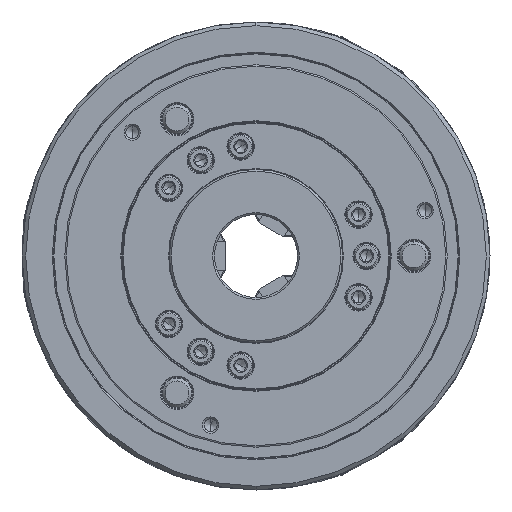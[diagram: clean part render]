
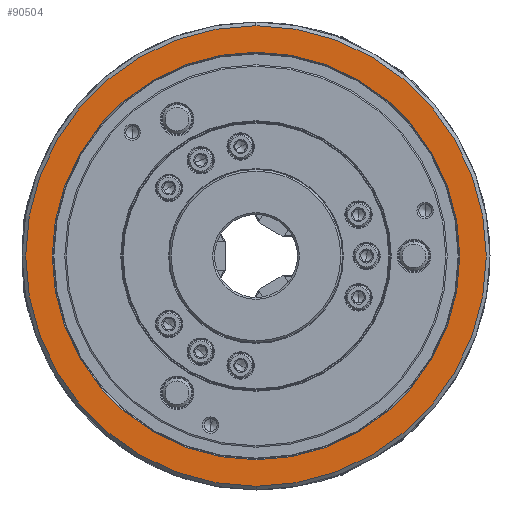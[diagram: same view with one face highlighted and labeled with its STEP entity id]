
A CAD part, left-side view. The second image highlights one B-rep face of the part: STEP entity #90504.
In plain terms, the highlighted planar face has unit normal (-1, 0, 0).
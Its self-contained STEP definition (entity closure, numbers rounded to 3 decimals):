
#719 = FACE_OUTER_BOUND ( 'NONE', #41656, .T. ) ;
#2224 = DIRECTION ( 'NONE',  ( 0., 0., -1. ) ) ;
#6208 = ORIENTED_EDGE ( 'NONE', *, *, #60204, .F. ) ;
#7930 = CARTESIAN_POINT ( 'NONE',  ( -100., 0., 0. ) ) ;
#9411 = DIRECTION ( 'NONE',  ( 1., 0., 0. ) ) ;
#12357 = VERTEX_POINT ( 'NONE', #35640 ) ;
#15663 = ORIENTED_EDGE ( 'NONE', *, *, #82801, .T. ) ;
#15787 = AXIS2_PLACEMENT_3D ( 'NONE', #93318, #47197, #54785 ) ;
#17902 = CARTESIAN_POINT ( 'NONE',  ( -100., 0., 0. ) ) ;
#19371 = EDGE_LOOP ( 'NONE', ( #15663, #53640 ) ) ;
#19692 = AXIS2_PLACEMENT_3D ( 'NONE', #17902, #71585, #2224 ) ;
#21670 = CARTESIAN_POINT ( 'NONE',  ( -100., 0., 125. ) ) ;
#22261 = CARTESIAN_POINT ( 'NONE',  ( -100., 0., -125. ) ) ;
#26738 = AXIS2_PLACEMENT_3D ( 'NONE', #73555, #65959, #28414 ) ;
#28414 = DIRECTION ( 'NONE',  ( 0., 0., -1. ) ) ;
#28588 = VERTEX_POINT ( 'NONE', #21670 ) ;
#35640 = CARTESIAN_POINT ( 'NONE',  ( -100., 0., -110.6 ) ) ;
#35836 = CIRCLE ( 'NONE', #19692, 125. ) ;
#36183 = EDGE_CURVE ( 'NONE', #12357, #87492, #91445, .T. ) ;
#38104 = PLANE ( 'NONE',  #15787 ) ;
#38493 = VERTEX_POINT ( 'NONE', #22261 ) ;
#38739 = DIRECTION ( 'NONE',  ( 0., 0., -1. ) ) ;
#41656 = EDGE_LOOP ( 'NONE', ( #6208, #67216 ) ) ;
#47197 = DIRECTION ( 'NONE',  ( -1., 0., 0. ) ) ;
#47266 = AXIS2_PLACEMENT_3D ( 'NONE', #7930, #9411, #38739 ) ;
#47368 = CIRCLE ( 'NONE', #63636, 125. ) ;
#47916 = EDGE_CURVE ( 'NONE', #28588, #38493, #35836, .T. ) ;
#48943 = DIRECTION ( 'NONE',  ( 1., 0., 0. ) ) ;
#51480 = CARTESIAN_POINT ( 'NONE',  ( -100., 0., 110.6 ) ) ;
#53640 = ORIENTED_EDGE ( 'NONE', *, *, #36183, .T. ) ;
#54785 = DIRECTION ( 'NONE',  ( 0., 0., 1. ) ) ;
#56560 = DIRECTION ( 'NONE',  ( 0., 0., -1. ) ) ;
#60204 = EDGE_CURVE ( 'NONE', #38493, #28588, #47368, .T. ) ;
#63636 = AXIS2_PLACEMENT_3D ( 'NONE', #79405, #48943, #56560 ) ;
#65959 = DIRECTION ( 'NONE',  ( 1., 0., 0. ) ) ;
#66826 = CIRCLE ( 'NONE', #47266, 110.6 ) ;
#67216 = ORIENTED_EDGE ( 'NONE', *, *, #47916, .F. ) ;
#70069 = FACE_BOUND ( 'NONE', #19371, .T. ) ;
#71585 = DIRECTION ( 'NONE',  ( 1., 0., 0. ) ) ;
#73555 = CARTESIAN_POINT ( 'NONE',  ( -100., 0., 0. ) ) ;
#79405 = CARTESIAN_POINT ( 'NONE',  ( -100., 0., 0. ) ) ;
#82801 = EDGE_CURVE ( 'NONE', #87492, #12357, #66826, .T. ) ;
#87492 = VERTEX_POINT ( 'NONE', #51480 ) ;
#90504 = ADVANCED_FACE ( 'NONE', ( #70069, #719 ), #38104, .T. ) ;
#91445 = CIRCLE ( 'NONE', #26738, 110.6 ) ;
#93318 = CARTESIAN_POINT ( 'NONE',  ( -100., 110.6, 0. ) ) ;
